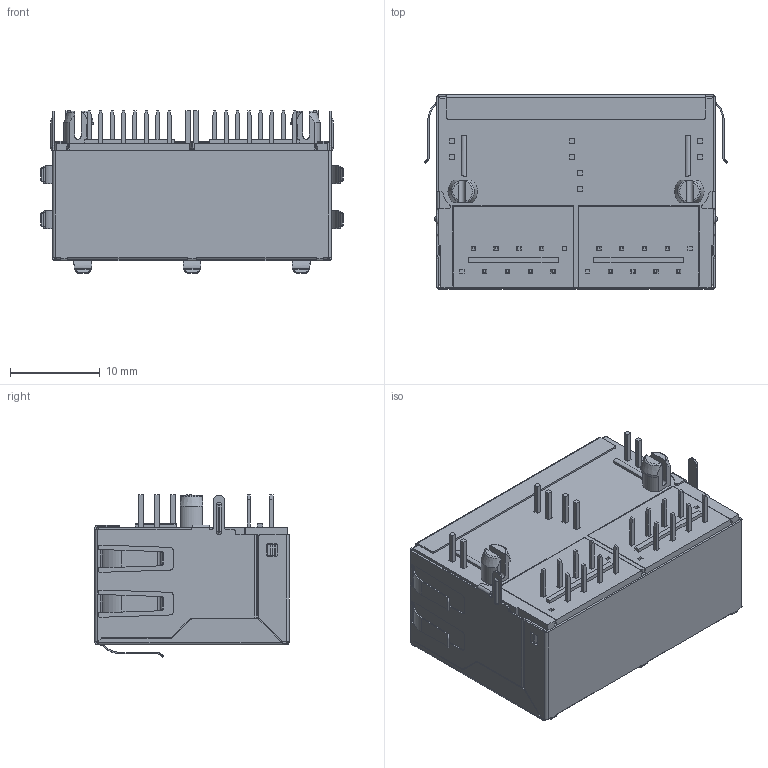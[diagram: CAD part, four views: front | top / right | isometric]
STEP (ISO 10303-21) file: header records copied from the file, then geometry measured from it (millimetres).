
FILE_DESCRIPTION((''),'2;1');
FILE_NAME('DGKYD212Q776FG1A4D','2024-11-16T13:58:38',('DGKYD'),(''),'CREO PARAMETRIC BY PTC INC, 2019010','CREO PARAMETRIC BY PTC INC, 2019010','');
FILE_SCHEMA(('CONFIG_CONTROL_DESIGN'));
Products named in the file (1): DGKYD212Q776FG1A4D
Bounding box: 33.7 x 21.6 x 18.05 mm (x, y, z)
Volume: 6248.7 mm3; surface area: 8907.5 mm2
Topology: 1 solids, 7 shells, 2526 faces, 7368 edges, 4851 vertices
Faces by surface type: plane 1892, cylinder 620, torus 4, cone 4, bspline 4, sphere 2
Entity records: 83553 total; most frequent: CARTESIAN_POINT 15913, ORIENTED_EDGE 14732, DIRECTION 13329, EDGE_CURVE 7366, VECTOR 5943, LINE 5943, VERTEX_POINT 4851, AXIS2_PLACEMENT_3D 3693
